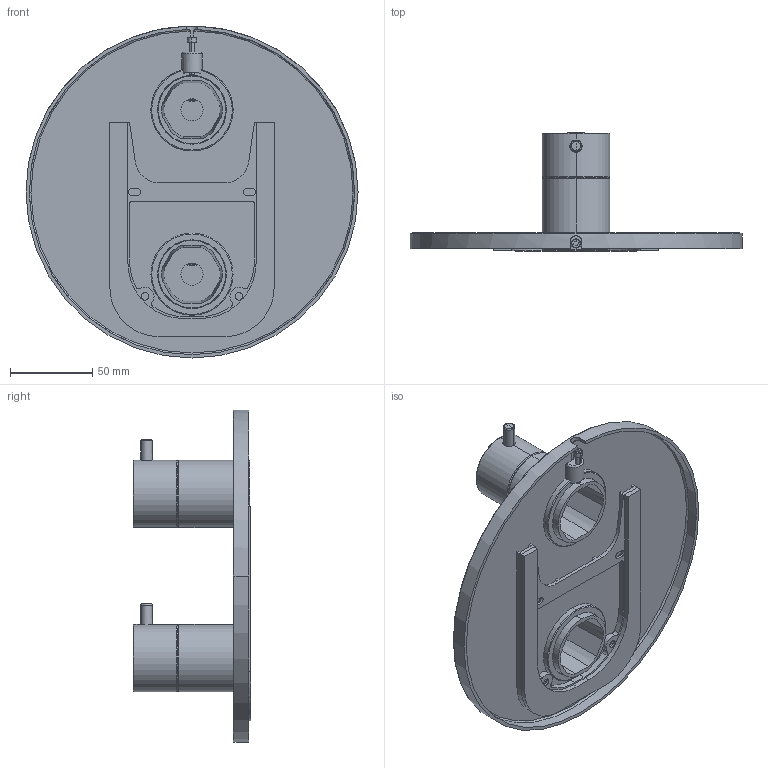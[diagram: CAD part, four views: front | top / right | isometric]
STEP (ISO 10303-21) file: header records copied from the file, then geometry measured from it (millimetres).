
FILE_DESCRIPTION((''),'2;1');
FILE_NAME('76706--00_ASM','2022-05-11T07:36:02',('lalo2'),(''),'CREO PARAMETRIC BY PTC INC, 2018190','CREO PARAMETRIC BY PTC INC, 2018190','');
FILE_SCHEMA(('CONFIG_CONTROL_DESIGN'));
Products named in the file (24): 46009--; 4497600; 4606500; 4390700; 46010--_ASM; 4612600; 4497500; 4602300_ASM; 44978--; 4498100; 46017--_ASM; 4498000; 46021--_ASM; 44979--; 4600600; 44987--; 4498800; 44990--_ASM; 46022--; 1904300; 44986--; 44989--_ASM; 76706--00_SUB01_ASM; 76706--00_ASM
Assembly tree (28 placements, depth 4):
  76706--00_ASM
    76706--00_SUB01_ASM
      46010--_ASM
        46009--
        4497600  x2
        4606500
        4390700  x2
      4602300_ASM
        4612600
        4497500
      46017--_ASM
        44978--
        4498100
      46021--_ASM
        44978--
        4498000
      44990--_ASM
        44979--
        4600600
        44987--
        4498800
      44989--_ASM
        46022--
        4600600
        1904300
        44986--
        4498800
Bounding box: 202 x 71.6 x 202 mm (x, y, z)
Volume: 161026 mm3; surface area: 157344.5 mm2
Topology: 21 solids, 22 shells, 2244 faces, 5923 edges, 3769 vertices
Faces by surface type: plane 1072, cylinder 612, bspline 202, torus 189, cone 111, sphere 54, revolution 4
Entity records: 73973 total; most frequent: CARTESIAN_POINT 28010, ORIENTED_EDGE 10096, DIRECTION 8712, EDGE_CURVE 5050, VERTEX_POINT 3223, AXIS2_PLACEMENT_3D 3010, VECTOR 2688, LINE 2688
